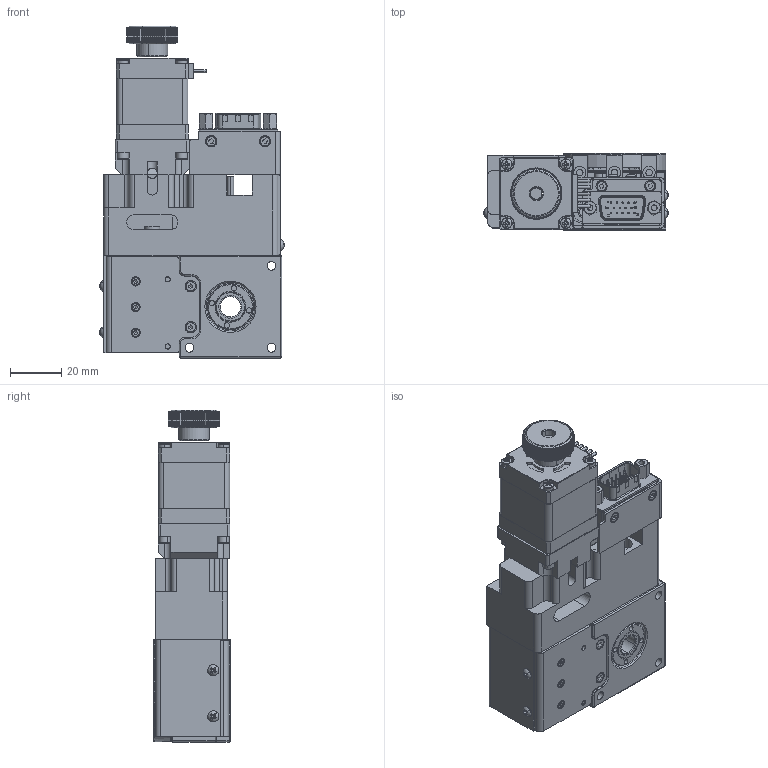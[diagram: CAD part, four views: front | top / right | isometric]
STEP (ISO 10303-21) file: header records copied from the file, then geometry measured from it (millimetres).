
FILE_DESCRIPTION (( 'STEP AP203' ), '1' );
FILE_NAME ('ARH40-A2P.STEP', '2020-01-10T00:22:18', ( '' ), ( '' ), 'SwSTEP 2.0', 'SolidWorks 2019', '' );
FILE_SCHEMA (( 'CONFIG_CONTROL_DESIGN' ));
Length unit declared in the file: millimetre
Products named in the file (1): ARH40-A2P
Bounding box: 71.83 x 30 x 129.6 mm (x, y, z)
Surface area: 49336.1 mm2 (no closed solid volume)
Topology: 0 solids, 89 shells, 1718 faces, 5694 edges, 3918 vertices
Faces by surface type: plane 793, cylinder 517, torus 230, cone 105, bspline 40, sphere 33
Entity records: 65771 total; most frequent: CARTESIAN_POINT 17237, DIRECTION 10058, ORIENTED_EDGE 9568, EDGE_CURVE 5639, VERTEX_POINT 3918, AXIS2_PLACEMENT_3D 3707, VECTOR 2644, LINE 2644
